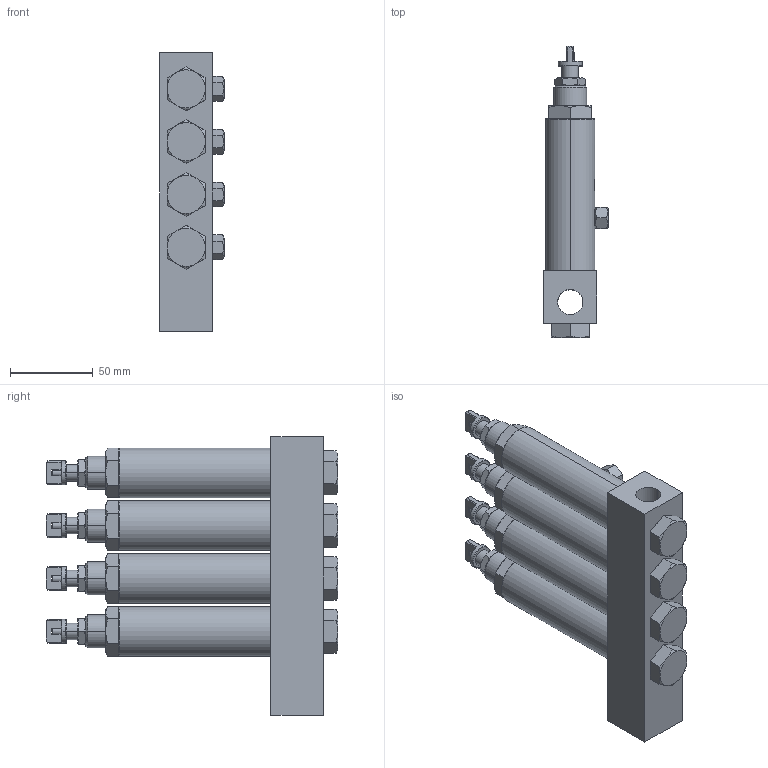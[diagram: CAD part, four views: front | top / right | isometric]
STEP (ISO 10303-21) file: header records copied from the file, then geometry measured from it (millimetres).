
FILE_DESCRIPTION (( 'STEP AP203' ), '1' );
FILE_NAME ('ASL-04.STEP', '2020-04-18T03:37:40', ( '个人用户' ), ( '微软中国' ), 'SwSTEP 2.0', 'SolidWorks 2018', '' );
FILE_SCHEMA (( 'CONFIG_CONTROL_DESIGN' ));
Length unit declared in the file: millimetre
Products named in the file (1): ASL-04
Bounding box: 39 x 176.5 x 169 mm (x, y, z)
Surface area: 86145.8 mm2 (no closed solid volume)
Topology: 0 solids, 43 shells, 449 faces, 1234 edges, 820 vertices
Faces by surface type: plane 231, cone 128, cylinder 74, torus 8, sphere 8
Entity records: 16395 total; most frequent: CARTESIAN_POINT 5348, DIRECTION 2218, ORIENTED_EDGE 2176, EDGE_CURVE 1214, AXIS2_PLACEMENT_3D 830, VERTEX_POINT 808, LINE 558, VECTOR 558
